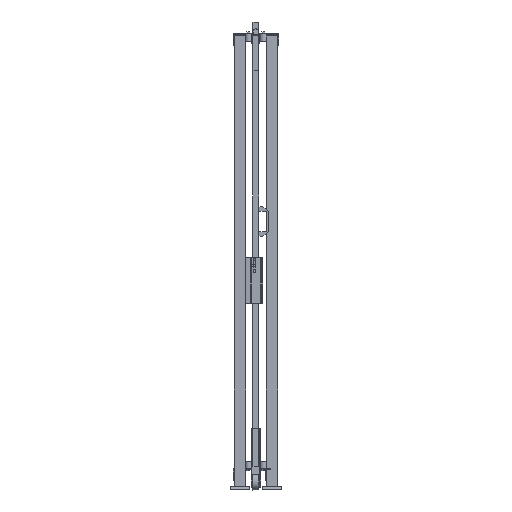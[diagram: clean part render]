
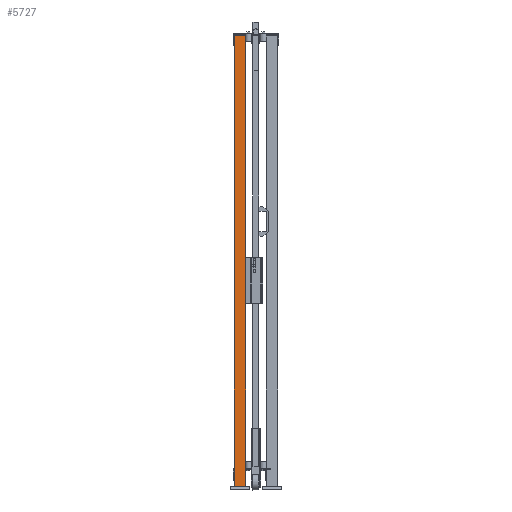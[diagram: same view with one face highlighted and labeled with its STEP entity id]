
A CAD part, left-side view. The second image highlights one B-rep face of the part: STEP entity #5727.
In plain terms, the highlighted planar face has unit normal (-1, 0, 0) as drawn and (0, 1, 0) by its records, which use the part's own axes.
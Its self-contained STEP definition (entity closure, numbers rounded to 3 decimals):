
#554=FACE_OUTER_BOUND('',#991,.T.);
#991=EDGE_LOOP('',(#3558,#3559,#3560,#3561));
#1479=VERTEX_POINT('',#12292);
#1480=VERTEX_POINT('',#12294);
#1482=VERTEX_POINT('',#12300);
#1485=VERTEX_POINT('',#12305);
#2293=EDGE_CURVE('',#1479,#1480,#6779,.T.);
#2299=EDGE_CURVE('',#1485,#1482,#6785,.T.);
#2302=EDGE_CURVE('',#1480,#1485,#6788,.T.);
#2303=EDGE_CURVE('',#1479,#1482,#6789,.T.);
#3558=ORIENTED_EDGE('',*,*,#2303,.T.);
#3559=ORIENTED_EDGE('',*,*,#2299,.F.);
#3560=ORIENTED_EDGE('',*,*,#2302,.F.);
#3561=ORIENTED_EDGE('',*,*,#2293,.F.);
#5334=PLANE('',#8711);
#5727=ADVANCED_FACE('',(#554),#5334,.F.);
#6779=LINE('',#12295,#7831);
#6785=LINE('',#12307,#7837);
#6788=LINE('',#12312,#7840);
#6789=LINE('',#12314,#7841);
#7831=VECTOR('',#9697,1.);
#7837=VECTOR('',#9705,1.);
#7840=VECTOR('',#9712,1.);
#7841=VECTOR('',#9715,1.);
#8711=AXIS2_PLACEMENT_3D('',#12313,#9713,#9714);
#9697=DIRECTION('',(-1.,0.,0.));
#9705=DIRECTION('',(1.,0.,0.));
#9712=DIRECTION('',(0.,0.,-1.));
#9713=DIRECTION('center_axis',(0.,-1.,0.));
#9714=DIRECTION('ref_axis',(0.,0.,-1.));
#9715=DIRECTION('',(0.,0.,-1.));
#12292=CARTESIAN_POINT('',(30.,30.,2320.));
#12294=CARTESIAN_POINT('',(-30.,30.,2320.));
#12295=CARTESIAN_POINT('',(0.,30.,2320.));
#12300=CARTESIAN_POINT('',(30.,30.,20.));
#12305=CARTESIAN_POINT('',(-30.,30.,20.));
#12307=CARTESIAN_POINT('',(0.,30.,20.));
#12312=CARTESIAN_POINT('',(-30.,30.,1170.));
#12313=CARTESIAN_POINT('Origin',(0.,30.,
1170.));
#12314=CARTESIAN_POINT('',(30.,30.,1170.));
